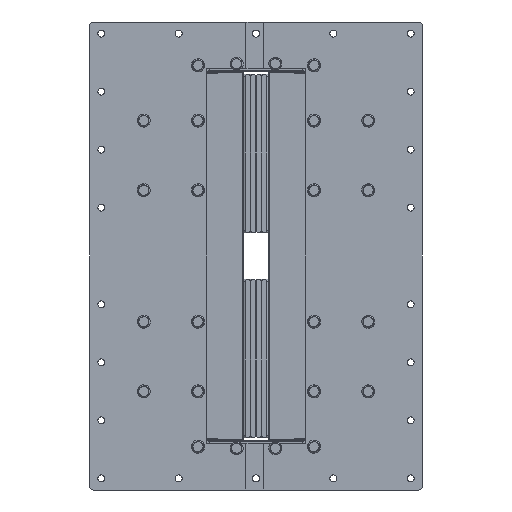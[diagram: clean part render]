
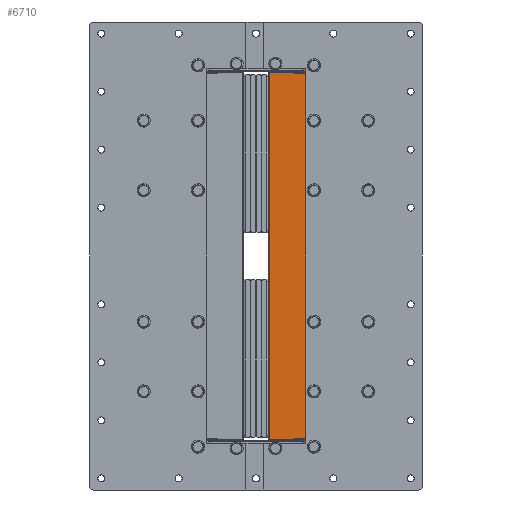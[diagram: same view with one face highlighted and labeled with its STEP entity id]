
A CAD part, left-side view. The second image highlights one B-rep face of the part: STEP entity #6710.
In plain terms, the highlighted planar face has unit normal (-1, 0, 0).
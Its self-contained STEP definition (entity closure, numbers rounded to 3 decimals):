
#5925=AXIS2_PLACEMENT_3D('Plane Axis2P3D',#5922,#5923,#5924) ;
#6059=AXIS2_PLACEMENT_3D('Circle Axis2P3D',#6057,#6058,$) ;
#6121=AXIS2_PLACEMENT_3D('Circle Axis2P3D',#6119,#6120,$) ;
#6390=AXIS2_PLACEMENT_3D('Circle Axis2P3D',#6388,#6389,$) ;
#6438=AXIS2_PLACEMENT_3D('Circle Axis2P3D',#6436,#6437,$) ;
#6604=AXIS2_PLACEMENT_3D('Circle Axis2P3D',#6602,#6603,$) ;
#6613=AXIS2_PLACEMENT_3D('Circle Axis2P3D',#6611,#6612,$) ;
#6622=AXIS2_PLACEMENT_3D('Circle Axis2P3D',#6620,#6621,$) ;
#6631=AXIS2_PLACEMENT_3D('Circle Axis2P3D',#6629,#6630,$) ;
#6640=AXIS2_PLACEMENT_3D('Circle Axis2P3D',#6638,#6639,$) ;
#6649=AXIS2_PLACEMENT_3D('Circle Axis2P3D',#6647,#6648,$) ;
#6658=AXIS2_PLACEMENT_3D('Circle Axis2P3D',#6656,#6657,$) ;
#6667=AXIS2_PLACEMENT_3D('Circle Axis2P3D',#6665,#6666,$) ;
#6676=AXIS2_PLACEMENT_3D('Circle Axis2P3D',#6674,#6675,$) ;
#6685=AXIS2_PLACEMENT_3D('Circle Axis2P3D',#6683,#6684,$) ;
#6694=AXIS2_PLACEMENT_3D('Circle Axis2P3D',#6692,#6693,$) ;
#6703=AXIS2_PLACEMENT_3D('Circle Axis2P3D',#6701,#6702,$) ;
#5922=CARTESIAN_POINT('Axis2P3D Location',(0.,0.,0.)) ;
#5963=CARTESIAN_POINT('Vertex',(0.,-60.,238.5)) ;
#5968=CARTESIAN_POINT('Line Origine',(0.,-60.,249.25)) ;
#5972=CARTESIAN_POINT('Vertex',(0.,-60.,260.)) ;
#6026=CARTESIAN_POINT('Line Origine',(0.,-69.,260.)) ;
#6030=CARTESIAN_POINT('Vertex',(0.,-78.,260.)) ;
#6057=CARTESIAN_POINT('Axis2P3D Location',(0.,-78.,255.)) ;
#6061=CARTESIAN_POINT('Vertex',(0.,-83.,255.)) ;
#6088=CARTESIAN_POINT('Line Origine',(0.,-83.,0.)) ;
#6092=CARTESIAN_POINT('Vertex',(0.,-83.,-255.)) ;
#6119=CARTESIAN_POINT('Axis2P3D Location',(0.,-78.,-255.)) ;
#6123=CARTESIAN_POINT('Vertex',(0.,-78.,-260.)) ;
#6150=CARTESIAN_POINT('Line Origine',(0.,-69.,-260.)) ;
#6154=CARTESIAN_POINT('Vertex',(0.,-60.,-260.)) ;
#6176=CARTESIAN_POINT('Line Origine',(0.,-60.,-249.25)) ;
#6180=CARTESIAN_POINT('Vertex',(0.,-60.,-238.5)) ;
#6215=CARTESIAN_POINT('Vertex',(0.,-60.,237.)) ;
#6218=CARTESIAN_POINT('Line Origine',(0.,-60.,237.75)) ;
#6251=CARTESIAN_POINT('Vertex',(0.,-18.22,237.)) ;
#6254=CARTESIAN_POINT('Line Origine',(0.,-39.11,237.)) ;
#6385=CARTESIAN_POINT('Vertex',(0.,-17.72,236.5)) ;
#6388=CARTESIAN_POINT('Axis2P3D Location',(0.,-18.22,236.5)) ;
#6409=CARTESIAN_POINT('Vertex',(0.,-17.72,-236.5)) ;
#6412=CARTESIAN_POINT('Line Origine',(0.,-17.72,0.)) ;
#6433=CARTESIAN_POINT('Vertex',(0.,-18.22,-237.)) ;
#6436=CARTESIAN_POINT('Axis2P3D Location',(0.,-18.22,-236.5)) ;
#6457=CARTESIAN_POINT('Vertex',(0.,-60.,-237.)) ;
#6460=CARTESIAN_POINT('Line Origine',(0.,-39.11,-237.)) ;
#6477=CARTESIAN_POINT('Line Origine',(0.,-60.,-237.75)) ;
#6602=CARTESIAN_POINT('Axis2P3D Location',(0.,-75.,175.)) ;
#6606=CARTESIAN_POINT('Vertex',(0.,-79.5,175.)) ;
#6608=CARTESIAN_POINT('Vertex',(0.,-70.5,175.)) ;
#6611=CARTESIAN_POINT('Axis2P3D Location',(0.,-75.,175.)) ;
#6620=CARTESIAN_POINT('Axis2P3D Location',(0.,-75.,85.)) ;
#6624=CARTESIAN_POINT('Vertex',(0.,-79.5,85.)) ;
#6626=CARTESIAN_POINT('Vertex',(0.,-70.5,85.)) ;
#6629=CARTESIAN_POINT('Axis2P3D Location',(0.,-75.,85.)) ;
#6638=CARTESIAN_POINT('Axis2P3D Location',(0.,-75.,-85.)) ;
#6642=CARTESIAN_POINT('Vertex',(0.,-79.5,-85.)) ;
#6644=CARTESIAN_POINT('Vertex',(0.,-70.5,-85.)) ;
#6647=CARTESIAN_POINT('Axis2P3D Location',(0.,-75.,-85.)) ;
#6656=CARTESIAN_POINT('Axis2P3D Location',(0.,-75.,-175.)) ;
#6660=CARTESIAN_POINT('Vertex',(0.,-79.5,-175.)) ;
#6662=CARTESIAN_POINT('Vertex',(0.,-70.5,-175.)) ;
#6665=CARTESIAN_POINT('Axis2P3D Location',(0.,-75.,-175.)) ;
#6674=CARTESIAN_POINT('Axis2P3D Location',(0.,-75.,246.5)) ;
#6678=CARTESIAN_POINT('Vertex',(0.,-79.5,246.5)) ;
#6680=CARTESIAN_POINT('Vertex',(0.,-70.5,246.5)) ;
#6683=CARTESIAN_POINT('Axis2P3D Location',(0.,-75.,246.5)) ;
#6692=CARTESIAN_POINT('Axis2P3D Location',(0.,-75.,-246.5)) ;
#6696=CARTESIAN_POINT('Vertex',(0.,-79.5,-246.5)) ;
#6698=CARTESIAN_POINT('Vertex',(0.,-70.5,-246.5)) ;
#6701=CARTESIAN_POINT('Axis2P3D Location',(0.,-75.,-246.5)) ;
#5923=DIRECTION('Axis2P3D Direction',(1.,0.,0.)) ;
#5924=DIRECTION('Axis2P3D XDirection',(0.,1.,0.)) ;
#5969=DIRECTION('Vector Direction',(0.,0.,-1.)) ;
#6027=DIRECTION('Vector Direction',(0.,-1.,0.)) ;
#6058=DIRECTION('Axis2P3D Direction',(1.,0.,0.)) ;
#6089=DIRECTION('Vector Direction',(0.,0.,1.)) ;
#6120=DIRECTION('Axis2P3D Direction',(1.,0.,0.)) ;
#6151=DIRECTION('Vector Direction',(0.,1.,0.)) ;
#6177=DIRECTION('Vector Direction',(0.,0.,-1.)) ;
#6219=DIRECTION('Vector Direction',(0.,0.,-1.)) ;
#6255=DIRECTION('Vector Direction',(0.,1.,0.)) ;
#6389=DIRECTION('Axis2P3D Direction',(1.,0.,0.)) ;
#6413=DIRECTION('Vector Direction',(0.,0.,1.)) ;
#6437=DIRECTION('Axis2P3D Direction',(1.,0.,0.)) ;
#6461=DIRECTION('Vector Direction',(0.,-1.,0.)) ;
#6478=DIRECTION('Vector Direction',(0.,0.,-1.)) ;
#6603=DIRECTION('Axis2P3D Direction',(1.,0.,0.)) ;
#6612=DIRECTION('Axis2P3D Direction',(1.,0.,0.)) ;
#6621=DIRECTION('Axis2P3D Direction',(1.,0.,0.)) ;
#6630=DIRECTION('Axis2P3D Direction',(1.,0.,0.)) ;
#6639=DIRECTION('Axis2P3D Direction',(1.,0.,0.)) ;
#6648=DIRECTION('Axis2P3D Direction',(1.,0.,0.)) ;
#6657=DIRECTION('Axis2P3D Direction',(1.,0.,0.)) ;
#6666=DIRECTION('Axis2P3D Direction',(1.,0.,0.)) ;
#6675=DIRECTION('Axis2P3D Direction',(1.,0.,0.)) ;
#6684=DIRECTION('Axis2P3D Direction',(1.,0.,0.)) ;
#6693=DIRECTION('Axis2P3D Direction',(1.,0.,0.)) ;
#6702=DIRECTION('Axis2P3D Direction',(1.,0.,0.)) ;
#5970=VECTOR('Line Direction',#5969,1.) ;
#6028=VECTOR('Line Direction',#6027,1.) ;
#6090=VECTOR('Line Direction',#6089,1.) ;
#6152=VECTOR('Line Direction',#6151,1.) ;
#6178=VECTOR('Line Direction',#6177,1.) ;
#6220=VECTOR('Line Direction',#6219,1.) ;
#6256=VECTOR('Line Direction',#6255,1.) ;
#6414=VECTOR('Line Direction',#6413,1.) ;
#6462=VECTOR('Line Direction',#6461,1.) ;
#6479=VECTOR('Line Direction',#6478,1.) ;
#6587=ORIENTED_EDGE('',*,*,#6222,.T.) ;
#6588=ORIENTED_EDGE('',*,*,#6258,.T.) ;
#6589=ORIENTED_EDGE('',*,*,#6392,.T.) ;
#6590=ORIENTED_EDGE('',*,*,#6416,.T.) ;
#6591=ORIENTED_EDGE('',*,*,#6440,.T.) ;
#6592=ORIENTED_EDGE('',*,*,#6464,.T.) ;
#6593=ORIENTED_EDGE('',*,*,#6481,.T.) ;
#6594=ORIENTED_EDGE('',*,*,#6182,.F.) ;
#6595=ORIENTED_EDGE('',*,*,#6156,.F.) ;
#6596=ORIENTED_EDGE('',*,*,#6125,.F.) ;
#6597=ORIENTED_EDGE('',*,*,#6094,.F.) ;
#6598=ORIENTED_EDGE('',*,*,#6063,.F.) ;
#6599=ORIENTED_EDGE('',*,*,#6032,.F.) ;
#6600=ORIENTED_EDGE('',*,*,#5974,.F.) ;
#6617=ORIENTED_EDGE('',*,*,#6610,.T.) ;
#6618=ORIENTED_EDGE('',*,*,#6615,.T.) ;
#6635=ORIENTED_EDGE('',*,*,#6628,.T.) ;
#6636=ORIENTED_EDGE('',*,*,#6633,.T.) ;
#6653=ORIENTED_EDGE('',*,*,#6646,.T.) ;
#6654=ORIENTED_EDGE('',*,*,#6651,.T.) ;
#6671=ORIENTED_EDGE('',*,*,#6664,.T.) ;
#6672=ORIENTED_EDGE('',*,*,#6669,.T.) ;
#6689=ORIENTED_EDGE('',*,*,#6682,.T.) ;
#6690=ORIENTED_EDGE('',*,*,#6687,.T.) ;
#6707=ORIENTED_EDGE('',*,*,#6700,.T.) ;
#6708=ORIENTED_EDGE('',*,*,#6705,.T.) ;
#6619=FACE_BOUND('',#6616,.T.) ;
#6637=FACE_BOUND('',#6634,.T.) ;
#6655=FACE_BOUND('',#6652,.T.) ;
#6673=FACE_BOUND('',#6670,.T.) ;
#6691=FACE_BOUND('',#6688,.T.) ;
#6709=FACE_BOUND('',#6706,.T.) ;
#6710=ADVANCED_FACE('Laterale(L3)',(#6601,#6619,#6637,#6655,#6673,#6691,#6709),#5926,.F.) ;
#6060=CIRCLE('generated circle',#6059,5.) ;
#6122=CIRCLE('generated circle',#6121,5.) ;
#6391=CIRCLE('generated circle',#6390,0.5) ;
#6439=CIRCLE('generated circle',#6438,0.5) ;
#6605=CIRCLE('generated circle',#6604,4.5) ;
#6614=CIRCLE('generated circle',#6613,4.5) ;
#6623=CIRCLE('generated circle',#6622,4.5) ;
#6632=CIRCLE('generated circle',#6631,4.5) ;
#6641=CIRCLE('generated circle',#6640,4.5) ;
#6650=CIRCLE('generated circle',#6649,4.5) ;
#6659=CIRCLE('generated circle',#6658,4.5) ;
#6668=CIRCLE('generated circle',#6667,4.5) ;
#6677=CIRCLE('generated circle',#6676,4.5) ;
#6686=CIRCLE('generated circle',#6685,4.5) ;
#6695=CIRCLE('generated circle',#6694,4.5) ;
#6704=CIRCLE('generated circle',#6703,4.5) ;
#5974=EDGE_CURVE('',#5964,#5973,#5971,.F.) ;
#6032=EDGE_CURVE('',#5973,#6031,#6029,.T.) ;
#6063=EDGE_CURVE('',#6031,#6062,#6060,.T.) ;
#6094=EDGE_CURVE('',#6062,#6093,#6091,.F.) ;
#6125=EDGE_CURVE('',#6093,#6124,#6122,.T.) ;
#6156=EDGE_CURVE('',#6124,#6155,#6153,.T.) ;
#6182=EDGE_CURVE('',#6155,#6181,#6179,.F.) ;
#6222=EDGE_CURVE('',#5964,#6216,#6221,.T.) ;
#6258=EDGE_CURVE('',#6216,#6252,#6257,.T.) ;
#6392=EDGE_CURVE('',#6252,#6386,#6391,.F.) ;
#6416=EDGE_CURVE('',#6386,#6410,#6415,.F.) ;
#6440=EDGE_CURVE('',#6410,#6434,#6439,.F.) ;
#6464=EDGE_CURVE('',#6434,#6458,#6463,.T.) ;
#6481=EDGE_CURVE('',#6458,#6181,#6480,.T.) ;
#6610=EDGE_CURVE('',#6607,#6609,#6605,.T.) ;
#6615=EDGE_CURVE('',#6609,#6607,#6614,.T.) ;
#6628=EDGE_CURVE('',#6625,#6627,#6623,.T.) ;
#6633=EDGE_CURVE('',#6627,#6625,#6632,.T.) ;
#6646=EDGE_CURVE('',#6643,#6645,#6641,.T.) ;
#6651=EDGE_CURVE('',#6645,#6643,#6650,.T.) ;
#6664=EDGE_CURVE('',#6661,#6663,#6659,.T.) ;
#6669=EDGE_CURVE('',#6663,#6661,#6668,.T.) ;
#6682=EDGE_CURVE('',#6679,#6681,#6677,.T.) ;
#6687=EDGE_CURVE('',#6681,#6679,#6686,.T.) ;
#6700=EDGE_CURVE('',#6697,#6699,#6695,.T.) ;
#6705=EDGE_CURVE('',#6699,#6697,#6704,.T.) ;
#6586=EDGE_LOOP('',(#6587,#6588,#6589,#6590,#6591,#6592,#6593,#6594,#6595,#6596,#6597,#6598,#6599,#6600)) ;
#6616=EDGE_LOOP('',(#6617,#6618)) ;
#6634=EDGE_LOOP('',(#6635,#6636)) ;
#6652=EDGE_LOOP('',(#6653,#6654)) ;
#6670=EDGE_LOOP('',(#6671,#6672)) ;
#6688=EDGE_LOOP('',(#6689,#6690)) ;
#6706=EDGE_LOOP('',(#6707,#6708)) ;
#6601=FACE_OUTER_BOUND('',#6586,.T.) ;
#5971=LINE('Line',#5968,#5970) ;
#6029=LINE('Line',#6026,#6028) ;
#6091=LINE('Line',#6088,#6090) ;
#6153=LINE('Line',#6150,#6152) ;
#6179=LINE('Line',#6176,#6178) ;
#6221=LINE('Line',#6218,#6220) ;
#6257=LINE('Line',#6254,#6256) ;
#6415=LINE('Line',#6412,#6414) ;
#6463=LINE('Line',#6460,#6462) ;
#6480=LINE('Line',#6477,#6479) ;
#5926=PLANE('',#5925) ;
#5964=VERTEX_POINT('',#5963) ;
#5973=VERTEX_POINT('',#5972) ;
#6031=VERTEX_POINT('',#6030) ;
#6062=VERTEX_POINT('',#6061) ;
#6093=VERTEX_POINT('',#6092) ;
#6124=VERTEX_POINT('',#6123) ;
#6155=VERTEX_POINT('',#6154) ;
#6181=VERTEX_POINT('',#6180) ;
#6216=VERTEX_POINT('',#6215) ;
#6252=VERTEX_POINT('',#6251) ;
#6386=VERTEX_POINT('',#6385) ;
#6410=VERTEX_POINT('',#6409) ;
#6434=VERTEX_POINT('',#6433) ;
#6458=VERTEX_POINT('',#6457) ;
#6607=VERTEX_POINT('',#6606) ;
#6609=VERTEX_POINT('',#6608) ;
#6625=VERTEX_POINT('',#6624) ;
#6627=VERTEX_POINT('',#6626) ;
#6643=VERTEX_POINT('',#6642) ;
#6645=VERTEX_POINT('',#6644) ;
#6661=VERTEX_POINT('',#6660) ;
#6663=VERTEX_POINT('',#6662) ;
#6679=VERTEX_POINT('',#6678) ;
#6681=VERTEX_POINT('',#6680) ;
#6697=VERTEX_POINT('',#6696) ;
#6699=VERTEX_POINT('',#6698) ;
